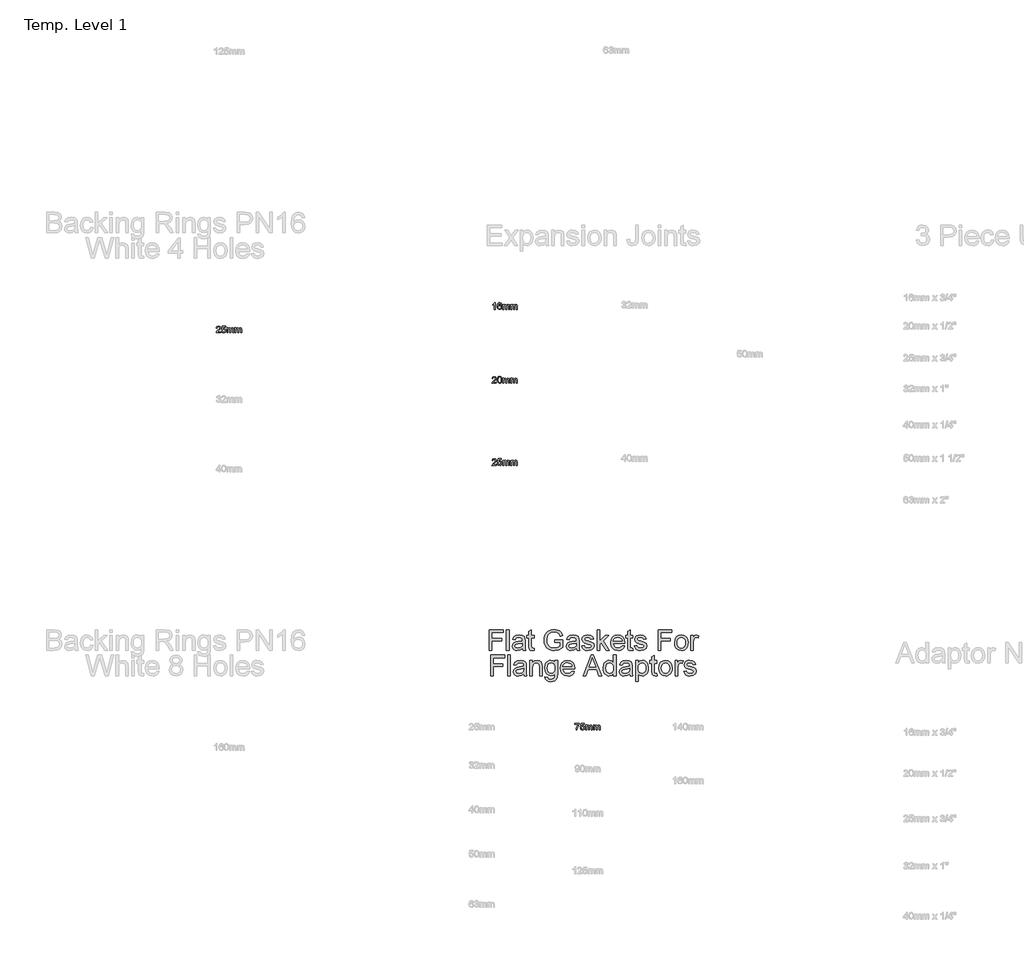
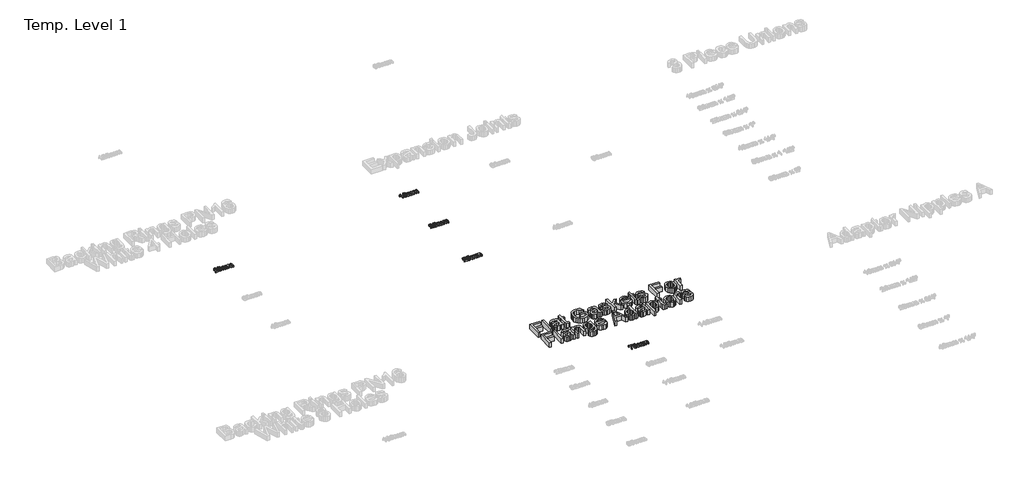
# One storey, part 10 of 62: 6 proxies.
"""IFC4 building model written with IfcOpenShell, lengths in millimetres."""

from ifc_helpers import new_model, si_unit, origin, origin_with_axes, place, context, project, spatial, polyline, outline, extrude, element, save

model = new_model("IFC4")

# Units and contexts
model_context = context("Model", 3, world=origin())
ifc_project = project(units=[si_unit("LENGTHUNIT", "METRE", prefix="MILLI")], contexts=[model_context])

# Site, building, storey
site = spatial("IfcSite", under=ifc_project)
building = spatial("IfcBuilding", under=site)
storey = spatial("IfcBuildingStorey", under=building, Name="Temp. Level 1", Elevation=0.0)

# Proxies
placement = place(None, origin())
element("IfcBuildingElementProxy", 1, Name="150mm Arial", ObjectType="150mm Arial", at=placement, inside=storey, context=model_context, shape_type="SweptSolid", body=[
    extrude(outline(polyline([(11676.1176365, -6979.0446709), (11676.1176365, -6831.3523632), (11775.3484058, -6831.3523632), (11775.3484058, -6849.8139016), (11694.579175, -6849.8139016), (11694.579175, -6893.6600555), (11763.8099442, -6893.6600555), (11763.8099442, -6912.1215939), (11694.579175, -6912.1215939), (11694.579175, -6979.0446709), (11676.1176365, -6979.0446709)])), origin_with_axes(), (0.0, 0.0, 1.0), 50.0),
    extrude(outline(polyline([(11798.4253288, -6979.0446709), (11798.4253288, -6831.3523632), (11816.8868673, -6831.3523632), (11816.8868673, -6979.0446709), (11798.4253288, -6979.0446709)])), origin_with_axes(), (0.0, 0.0, 1.0), 50.0),
    extrude(outline(polyline([(11913.8099442, -6965.198517), (11895.9073, -6977.7105362), (11876.1296558, -6981.3523632), (11860.7014707, -6979.1618584), (11849.3207615, -6972.5903439), (11842.3030332, -6962.6113776), (11839.9637904, -6950.198517), (11843.4974442, -6935.5951516), (11852.7823, -6924.9941901), (11865.7089827, -6918.9364978), (11881.6825404, -6916.1600555), (11913.7017712, -6909.8139016), (11913.8099442, -6905.7033247), (11912.5389106, -6897.464142), (11908.7258096, -6892.073517), (11900.1981654, -6888.0711132), (11888.3171558, -6886.7369786), (11869.6392712, -6890.2886612), (11860.7330212, -6902.8908247), (11842.2714827, -6900.5831324), (11850.2582615, -6882.5542862), (11866.3399923, -6871.9893824), (11890.6969635, -6868.2754401), (11913.0707615, -6871.5566901), (11925.7089827, -6879.7958728), (11931.3700404, -6892.3259209), (11932.2714827, -6908.479767), (11932.2714827, -6931.448517), (11933.2089827, -6963.5218343), (11936.8868673, -6979.0446709), (11918.4253288, -6979.0446709), (11913.8099442, -6965.198517)]), holes=[polyline([(11913.8099442, -6928.2754401), (11884.0262904, -6933.9364978), (11868.1428769, -6936.9292862), (11860.9493673, -6941.7970747), (11858.4253288, -6948.9004401), (11863.9241269, -6958.8884209), (11880.0599442, -6962.8908247), (11898.7378288, -6958.4737574), (11910.7810981, -6947.7826516), (11913.7017712, -6933.5038055), (11913.8099442, -6928.2754401)])]), origin_with_axes(), (0.0, 0.0, 1.0), 50.0),
    extrude(outline(polyline([(11996.8868673, -6963.6480362), (11999.1945596, -6979.5855362), (11985.3844635, -6981.3523632), (11969.9157135, -6978.2874593), (11962.1993673, -6970.2465939), (11959.9637904, -6949.2970747), (11959.9637904, -6889.0446709), (11946.1176365, -6889.0446709), (11946.1176365, -6870.5831324), (11959.9637904, -6870.5831324), (11959.9637904, -6844.2249593), (11978.4253288, -6833.3715939), (11978.4253288, -6870.5831324), (11996.8868673, -6870.5831324), (11996.8868673, -6889.0446709), (11978.4253288, -6889.0446709), (11978.4253288, -6948.7562093), (11979.3988865, -6958.2754401), (11982.5539346, -6961.6468343), (11988.8460019, -6962.8908247), (11996.8868673, -6963.6480362)])), origin_with_axes(), (0.0, 0.0, 1.0), 50.0),
    extrude(outline(polyline([(12144.579175, -6921.3523632), (12144.579175, -6902.8908247), (12204.579175, -6902.8908247), (12204.579175, -6958.0951516), (12174.9577808, -6975.511017), (12143.641675, -6981.3523632), (12122.931038, -6979.0311492), (12104.2125885, -6972.0675074), (12088.6627087, -6960.7048271), (12077.4577808, -6945.1864978), (12070.6834418, -6926.5717141), (12068.4253288, -6905.9196709), (12070.6744274, -6885.1188896), (12077.4217231, -6865.7694305), (12088.3877688, -6849.5389617), (12103.2931173, -6838.0951516), (12121.4481654, -6831.3072911), (12142.1633096, -6829.0446709), (12171.0455212, -6834.2910651), (12182.5614466, -6840.5651036), (12191.2919154, -6848.8944305), (12202.4517712, -6873.323517), (12185.4325404, -6878.1191901), (12177.0130692, -6861.0458728), (12162.62605, -6851.2021228), (12141.8748481, -6847.5062093), (12118.2390308, -6851.4905843), (12102.1573, -6861.9473151), (12092.6560981, -6876.1720747), (12086.8868673, -6905.1624593), (12088.6221438, -6922.8172069), (12093.8279731, -6937.3439497), (12102.3466029, -6948.6390218), (12114.0202808, -6956.5987574), (12127.6816389, -6961.3178079), (12142.1633096, -6962.8908247), (12167.4217231, -6958.1492382), (12186.1176365, -6948.0350555), (12186.1176365, -6921.3523632), (12144.579175, -6921.3523632)])), origin_with_axes(), (0.0, 0.0, 1.0), 50.0),
    extrude(outline(polyline([(12301.5022519, -6965.198517), (12283.5996077, -6977.7105362), (12263.8219635, -6981.3523632), (12248.3937784, -6979.1618584), (12237.0130692, -6972.5903439), (12229.9953409, -6962.6113776), (12227.6560981, -6950.198517), (12231.1897519, -6935.5951516), (12240.4746077, -6924.9941901), (12253.4012904, -6918.9364978), (12269.3748481, -6916.1600555), (12301.3940788, -6909.8139016), (12301.5022519, -6905.7033247), (12300.2312183, -6897.464142), (12296.4181173, -6892.073517), (12287.8904731, -6888.0711132), (12276.0094635, -6886.7369786), (12257.3315788, -6890.2886612), (12248.4253288, -6902.8908247), (12229.9637904, -6900.5831324), (12237.9505692, -6882.5542862), (12254.0323, -6871.9893824), (12278.3892712, -6868.2754401), (12300.7630692, -6871.5566901), (12313.4012904, -6879.7958728), (12319.0623481, -6892.3259209), (12319.9637904, -6908.479767), (12319.9637904, -6931.448517), (12320.9012904, -6963.5218343), (12324.579175, -6979.0446709), (12306.1176365, -6979.0446709), (12301.5022519, -6965.198517)]), holes=[polyline([(12301.5022519, -6928.2754401), (12271.7185981, -6933.9364978), (12255.8351846, -6936.9292862), (12248.641675, -6941.7970747), (12246.1176365, -6948.9004401), (12251.6164346, -6958.8884209), (12267.7522519, -6962.8908247), (12286.4301365, -6958.4737574), (12298.4734058, -6947.7826516), (12301.3940788, -6933.5038055), (12301.5022519, -6928.2754401)])]), origin_with_axes(), (0.0, 0.0, 1.0), 50.0),
    extrude(outline(polyline([(12338.4253288, -6946.7369786), (12356.8868673, -6944.4292862), (12359.798526, -6952.3259209), (12365.4325404, -6958.1312093), (12385.0118673, -6962.8908247), (12403.8339827, -6958.5278439), (12409.9637904, -6948.2874593), (12403.797925, -6939.9941901), (12384.7955212, -6934.729767), (12356.9950404, -6925.6973151), (12344.8616269, -6915.1504401), (12340.7330212, -6900.2586132), (12344.0503288, -6886.5026036), (12353.1008096, -6875.9917862), (12364.8375885, -6870.5290459), (12380.7210019, -6868.2754401), (12403.1849442, -6871.8992382), (12417.4637904, -6881.7069305), (12423.8099442, -6898.2754401), (12405.3484058, -6900.5831324), (12398.4073, -6890.3968343), (12382.1633096, -6886.7369786), (12364.4950404, -6890.2345747), (12359.1945596, -6898.3836132), (12361.3940788, -6903.7562093), (12368.2810981, -6907.8307286), (12384.1825404, -6911.761017), (12411.2798962, -6920.4509209), (12423.8640308, -6930.2946709), (12428.4253288, -6946.3403439), (12423.0707615, -6964.0086132), (12407.6200404, -6976.8271228), (12384.7594635, -6981.3523632), (12366.1446798, -6979.1708728), (12352.5599442, -6972.6264016), (12343.4914346, -6961.7910651), (12338.4253288, -6946.7369786)])), origin_with_axes(), (0.0, 0.0, 1.0), 50.0),
    extrude(outline(polyline([(12449.1945596, -6979.0446709), (12449.1945596, -6831.3523632), (12467.6560981, -6831.3523632), (12467.6560981, -6910.7153439), (12509.0503288, -6870.5831324), (12534.579175, -6870.5831324), (12492.6801365, -6911.2201516), (12536.8868673, -6979.0446709), (12515.3243673, -6979.0446709), (12479.4469635, -6924.0566901), (12467.6560981, -6935.4869786), (12467.6560981, -6979.0446709), (12449.1945596, -6979.0446709)])), origin_with_axes(), (0.0, 0.0, 1.0), 50.0),
    extrude(outline(polyline([(12628.9782135, -6946.7369786), (12647.079175, -6949.0446709), (12640.5572399, -6962.683493), (12630.1500885, -6972.8788055), (12616.0920957, -6979.2339737), (12598.6176365, -6981.3523632), (12576.9559779, -6977.6970146), (12560.2883096, -6966.7309689), (12549.6603048, -6949.1663656), (12546.1176365, -6925.7153439), (12549.6963625, -6901.4755603), (12560.4325404, -6883.3475555), (12576.8748481, -6872.0434689), (12597.5719635, -6868.2754401), (12617.6245476, -6872.0344545), (12633.6476846, -6883.3114978), (12644.1539947, -6901.4034449), (12647.6560981, -6925.6071709), (12647.547925, -6930.5831324), (12564.579175, -6930.5831324), (12567.774788, -6944.402243), (12575.1981654, -6954.5614978), (12585.9118072, -6960.808493), (12598.9782135, -6962.8908247), (12617.079175, -6959.0326516), (12628.9782135, -6946.7369786)]), holes=[polyline([(12564.579175, -6912.1215939), (12629.1945596, -6912.1215939), (12626.6975644, -6902.3679882), (12621.8027327, -6895.3908247), (12611.0395115, -6888.9004401), (12597.4998481, -6886.7369786), (12585.055437, -6888.4632406), (12574.7654731, -6893.6420266), (12567.6125284, -6901.7144425), (12564.579175, -6912.1215939)])]), origin_with_axes(), (0.0, 0.0, 1.0), 50.0),
    extrude(outline(polyline([(12705.3484058, -6963.6480362), (12707.6560981, -6979.5855362), (12693.8460019, -6981.3523632), (12678.3772519, -6978.2874593), (12670.6609058, -6970.2465939), (12668.4253288, -6949.2970747), (12668.4253288, -6889.0446709), (12654.579175, -6889.0446709), (12654.579175, -6870.5831324), (12668.4253288, -6870.5831324), (12668.4253288, -6844.2249593), (12686.8868673, -6833.3715939), (12686.8868673, -6870.5831324), (12705.3484058, -6870.5831324), (12705.3484058, -6889.0446709), (12686.8868673, -6889.0446709), (12686.8868673, -6948.7562093), (12687.860425, -6958.2754401), (12691.0154731, -6961.6468343), (12697.3075404, -6962.8908247), (12705.3484058, -6963.6480362)])), origin_with_axes(), (0.0, 0.0, 1.0), 50.0),
    extrude(outline(polyline([(12716.8868673, -6946.7369786), (12735.3484058, -6944.4292862), (12738.2600644, -6952.3259209), (12743.8940788, -6958.1312093), (12763.4734058, -6962.8908247), (12782.2955212, -6958.5278439), (12788.4253288, -6948.2874593), (12782.2594635, -6939.9941901), (12763.2570596, -6934.729767), (12735.4565788, -6925.6973151), (12723.3231654, -6915.1504401), (12719.1945596, -6900.2586132), (12722.5118673, -6886.5026036), (12731.5623481, -6875.9917862), (12743.2991269, -6870.5290459), (12759.1825404, -6868.2754401), (12781.6464827, -6871.8992382), (12795.9253288, -6881.7069305), (12802.2714827, -6898.2754401), (12783.8099442, -6900.5831324), (12776.8688385, -6890.3968343), (12760.6248481, -6886.7369786), (12742.9565788, -6890.2345747), (12737.6560981, -6898.3836132), (12739.8556173, -6903.7562093), (12746.7426365, -6907.8307286), (12762.6440788, -6911.761017), (12789.7414346, -6920.4509209), (12802.3255692, -6930.2946709), (12806.8868673, -6946.3403439), (12801.5323, -6964.0086132), (12786.0815788, -6976.8271228), (12763.2210019, -6981.3523632), (12744.6062183, -6979.1708728), (12731.0214827, -6972.6264016), (12721.9529731, -6961.7910651), (12716.8868673, -6946.7369786)])), origin_with_axes(), (0.0, 0.0, 1.0), 50.0),
    extrude(outline(polyline([(12887.6560981, -6979.0446709), (12887.6560981, -6831.3523632), (12986.8868673, -6831.3523632), (12986.8868673, -6849.8139016), (12906.1176365, -6849.8139016), (12906.1176365, -6893.6600555), (12975.3484058, -6893.6600555), (12975.3484058, -6912.1215939), (12906.1176365, -6912.1215939), (12906.1176365, -6979.0446709), (12887.6560981, -6979.0446709)])), origin_with_axes(), (0.0, 0.0, 1.0), 50.0),
    extrude(outline(polyline([(13005.3484058, -6924.8139016), (13009.3417952, -6898.6630603), (13021.3219635, -6880.2826516), (13036.1236462, -6871.277243), (13053.8460019, -6868.2754401), (13073.2405332, -6871.9307887), (13088.7318192, -6882.8968343), (13098.8865668, -6900.3081925), (13102.2714827, -6923.2994786), (13100.7750885, -6941.9503199), (13096.2859058, -6956.1480362), (13088.9346438, -6966.7805483), (13078.8520115, -6974.7357766), (13066.8763505, -6979.6982165), (13053.8460019, -6981.3523632), (13034.2170957, -6977.7105362), (13018.7438385, -6966.7850555), (13008.6972639, -6949.0086132), (13005.3484058, -6924.8139016)]), holes=[polyline([(13023.8099442, -6924.7778439), (13025.9463625, -6941.4860771), (13032.3556173, -6953.3896228), (13042.00105, -6960.5155242), (13053.8460019, -6962.8908247), (13065.6368673, -6960.5020026), (13075.2642712, -6953.3355362), (13081.673526, -6941.2742382), (13083.8099442, -6924.2009209), (13081.6600043, -6907.9794665), (13075.2101846, -6896.2381805), (13065.5692591, -6889.112279), (13053.8460019, -6886.7369786), (13042.00105, -6889.1032646), (13032.3556173, -6896.2021228), (13025.9463625, -6908.0786252), (13023.8099442, -6924.7778439)])]), origin_with_axes(), (0.0, 0.0, 1.0), 50.0),
    extrude(outline(polyline([(13123.0407135, -6979.0446709), (13123.0407135, -6870.5831324), (13139.1945596, -6870.5831324), (13139.1945596, -6886.6288055), (13150.6609058, -6871.8451516), (13162.1993673, -6868.2754401), (13180.7330212, -6873.9725555), (13174.5671558, -6890.5230362), (13161.5863865, -6886.7369786), (13151.1476846, -6890.3788055), (13144.4950404, -6900.4749593), (13141.5022519, -6922.0374593), (13141.5022519, -6979.0446709), (13123.0407135, -6979.0446709)])), origin_with_axes(), (0.0, 0.0, 1.0), 50.0),
    extrude(outline(polyline([(11685.3484058, -7161.3523632), (11685.3484058, -7013.6600555), (11784.579175, -7013.6600555), (11784.579175, -7032.1215939), (11703.8099442, -7032.1215939), (11703.8099442, -7075.9677478), (11773.0407135, -7075.9677478), (11773.0407135, -7094.4292862), (11703.8099442, -7094.4292862), (11703.8099442, -7161.3523632), (11685.3484058, -7161.3523632)])), origin_with_axes(), (0.0, 0.0, 1.0), 50.0),
    extrude(outline(polyline([(11807.6560981, -7161.3523632), (11807.6560981, -7013.6600555), (11826.1176365, -7013.6600555), (11826.1176365, -7161.3523632), (11807.6560981, -7161.3523632)])), origin_with_axes(), (0.0, 0.0, 1.0), 50.0),
    extrude(outline(polyline([(11923.0407135, -7147.5062093), (11905.1380692, -7160.0182286), (11885.360425, -7163.6600555), (11869.9322399, -7161.4695507), (11858.5515308, -7154.8980362), (11851.5338024, -7144.9190699), (11849.1945596, -7132.5062093), (11852.7282135, -7117.9028439), (11862.0130692, -7107.3018824), (11874.9397519, -7101.2441901), (11890.9133096, -7098.4677478), (11922.9325404, -7092.1215939), (11923.0407135, -7088.011017), (11921.7696798, -7079.7718343), (11917.9565788, -7074.3812093), (11909.4289346, -7070.3788055), (11897.547925, -7069.0446709), (11878.8700404, -7072.5963536), (11869.9637904, -7085.198517), (11851.5022519, -7082.8908247), (11859.4890308, -7064.8619786), (11875.5707615, -7054.2970747), (11899.9277327, -7050.5831324), (11922.3015308, -7053.8643824), (11934.9397519, -7062.1035651), (11940.6008096, -7074.6336132), (11941.5022519, -7090.7874593), (11941.5022519, -7113.7562093), (11942.4397519, -7145.8295266), (11946.1176365, -7161.3523632), (11927.6560981, -7161.3523632), (11923.0407135, -7147.5062093)]), holes=[polyline([(11923.0407135, -7110.5831324), (11893.2570596, -7116.2441901), (11877.3736462, -7119.2369786), (11870.1801365, -7124.104767), (11867.6560981, -7131.2081324), (11873.1548962, -7141.1961132), (11889.2907135, -7145.198517), (11907.9685981, -7140.7814497), (11920.0118673, -7130.0903439), (11922.9325404, -7115.8114978), (11923.0407135, -7110.5831324)])]), origin_with_axes(), (0.0, 0.0, 1.0), 50.0),
    extrude(outline(polyline([(11966.8868673, -7161.3523632), (11966.8868673, -7052.8908247), (11985.3484058, -7052.8908247), (11985.3484058, -7068.0350555), (11999.4649923, -7054.9461132), (12018.7378288, -7050.5831324), (12036.1717231, -7054.0987574), (12048.0707615, -7063.3295266), (12053.6056173, -7076.9052478), (12054.579175, -7094.7538055), (12054.579175, -7161.3523632), (12036.1176365, -7161.3523632), (12036.1176365, -7097.2417862), (12033.9902327, -7080.9076516), (12026.4722038, -7072.2718343), (12013.797925, -7069.0446709), (12002.9851245, -7070.8565699), (11993.7678769, -7076.292267), (11987.4532736, -7086.7940699), (11985.3484058, -7103.8042862), (11985.3484058, -7161.3523632), (11966.8868673, -7161.3523632)])), origin_with_axes(), (0.0, 0.0, 1.0), 50.0),
    extrude(outline(polyline([(12075.3484058, -7170.5831324), (12093.8099442, -7172.8908247), (12099.7955212, -7182.6264016), (12117.7161942, -7186.7369786), (12136.610425, -7182.0855362), (12145.6248481, -7169.0326516), (12146.8868673, -7147.5062093), (12133.8880692, -7157.8908247), (12118.0407135, -7161.3523632), (12099.0067591, -7157.3229161), (12084.81355, -7145.2345747), (12075.9839226, -7127.5122189), (12073.0407135, -7106.5807286), (12078.3231654, -7077.9689497), (12084.7865067, -7066.3538656), (12093.6116269, -7057.7225555), (12104.4965428, -7052.3679882), (12117.1392712, -7050.5831324), (12133.6086221, -7054.6215939), (12146.8868673, -7066.7369786), (12146.8868673, -7052.8908247), (12165.3484058, -7052.8908247), (12165.3484058, -7146.5326516), (12164.0863865, -7168.1537454), (12160.3003288, -7182.3920266), (12153.7783938, -7191.8346348), (12144.3087423, -7199.0687093), (12132.0987063, -7203.6660651), (12117.3556173, -7205.198517), (12100.1786341, -7203.0395627), (12086.6524923, -7196.5626997), (12077.9761101, -7185.7498992), (12075.3484058, -7170.5831324)]), holes=[polyline([(12091.5022519, -7105.3187093), (12093.4719034, -7122.2523031), (12099.3808577, -7133.8944305), (12108.2645716, -7140.6417262), (12119.1585019, -7142.8908247), (12129.9713024, -7140.6552478), (12138.9000885, -7133.948517), (12144.8901726, -7122.4551276), (12146.8868673, -7105.8595747), (12144.8315788, -7089.8544665), (12138.6657135, -7078.3295266), (12129.6062183, -7071.3658848), (12118.8700404, -7069.0446709), (12108.3276726, -7071.3298271), (12099.4890308, -7078.1852959), (12093.4989466, -7089.5389617), (12091.5022519, -7105.3187093)])]), origin_with_axes(), (0.0, 0.0, 1.0), 50.0),
    extrude(outline(polyline([(12268.9782135, -7129.0446709), (12287.079175, -7131.3523632), (12280.5572399, -7144.9911853), (12270.1500885, -7155.1864978), (12256.0920957, -7161.5416661), (12238.6176365, -7163.6600555), (12216.9559779, -7160.0047069), (12200.2883096, -7149.0386612), (12189.6603048, -7131.4740579), (12186.1176365, -7108.0230362), (12189.6963625, -7083.7832526), (12200.4325404, -7065.6552478), (12216.8748481, -7054.3511612), (12237.5719635, -7050.5831324), (12257.6245476, -7054.3421468), (12273.6476846, -7065.6191901), (12284.1539947, -7083.7111372), (12287.6560981, -7107.9148632), (12287.547925, -7112.8908247), (12204.579175, -7112.8908247), (12207.774788, -7126.7099353), (12215.1981654, -7136.8691901), (12225.9118072, -7143.1161853), (12238.9782135, -7145.198517), (12257.079175, -7141.3403439), (12268.9782135, -7129.0446709)]), holes=[polyline([(12204.579175, -7094.4292862), (12269.1945596, -7094.4292862), (12266.6975644, -7084.6756805), (12261.8027327, -7077.698517), (12251.0395115, -7071.2081324), (12237.4998481, -7069.0446709), (12225.055437, -7070.7709329), (12214.7654731, -7075.9497189), (12207.6125284, -7084.0221348), (12204.579175, -7094.4292862)])]), origin_with_axes(), (0.0, 0.0, 1.0), 50.0),
    extrude(outline(polyline([(12348.9181173, -7161.3523632), (12407.8724442, -7013.6600555), (12423.5935981, -7013.6600555), (12482.547925, -7161.3523632), (12463.0407135, -7161.3523632), (12446.1296558, -7115.198517), (12385.3003288, -7115.198517), (12368.4253288, -7161.3523632), (12348.9181173, -7161.3523632)]), holes=[polyline([(12392.079175, -7096.7369786), (12439.3868673, -7096.7369786), (12426.0815788, -7060.4268824), (12415.7330212, -7032.1215939), (12406.5383096, -7057.2538055), (12392.079175, -7096.7369786)])]), origin_with_axes(), (0.0, 0.0, 1.0), 50.0),
    extrude(outline(polyline([(12566.8868673, -7161.3523632), (12566.8868673, -7143.9364978), (12554.672324, -7158.7291661), (12537.7883096, -7163.6600555), (12525.8532135, -7161.8751997), (12514.9277327, -7156.5206324), (12505.6789346, -7147.9704521), (12498.7738865, -7136.5987574), (12494.4740067, -7122.8652838), (12493.0407135, -7107.229767), (12498.3231654, -7077.8427478), (12504.9217231, -7066.1870987), (12514.1524923, -7057.6143824), (12525.3168553, -7052.3409449), (12537.7161942, -7050.5831324), (12554.735425, -7055.6131805), (12566.8868673, -7068.6840939), (12566.8868673, -7013.6600555), (12585.3484058, -7013.6600555), (12585.3484058, -7161.3523632), (12566.8868673, -7161.3523632)]), holes=[polyline([(12511.5022519, -7107.1576516), (12513.5845837, -7123.8568704), (12519.8315788, -7135.7333728), (12528.9091029, -7142.832231), (12539.4830212, -7145.198517), (12550.0524322, -7142.940404), (12558.9000885, -7136.1660651), (12564.8901726, -7124.7492983), (12566.8868673, -7108.5639016), (12564.8541149, -7090.8685891), (12558.7558577, -7078.5999593), (12549.6828409, -7071.433493), (12538.7258096, -7069.0446709), (12528.0437183, -7071.3388415), (12519.2907135, -7078.2213536), (12513.4493673, -7090.0437694), (12511.5022519, -7107.1576516)])]), origin_with_axes(), (0.0, 0.0, 1.0), 50.0),
    extrude(outline(polyline([(12682.2714827, -7147.5062093), (12664.3688385, -7160.0182286), (12644.5911942, -7163.6600555), (12629.1630091, -7161.4695507), (12617.7823, -7154.8980362), (12610.7645716, -7144.9190699), (12608.4253288, -7132.5062093), (12611.9589827, -7117.9028439), (12621.2438385, -7107.3018824), (12634.1705212, -7101.2441901), (12650.1440788, -7098.4677478), (12682.1633096, -7092.1215939), (12682.2714827, -7088.011017), (12681.000449, -7079.7718343), (12677.1873481, -7074.3812093), (12668.6597038, -7070.3788055), (12656.7786942, -7069.0446709), (12638.1008096, -7072.5963536), (12629.1945596, -7085.198517), (12610.7330212, -7082.8908247), (12618.7198, -7064.8619786), (12634.8015308, -7054.2970747), (12659.1585019, -7050.5831324), (12681.5323, -7053.8643824), (12694.1705212, -7062.1035651), (12699.8315788, -7074.6336132), (12700.7330212, -7090.7874593), (12700.7330212, -7113.7562093), (12701.6705212, -7145.8295266), (12705.3484058, -7161.3523632), (12686.8868673, -7161.3523632), (12682.2714827, -7147.5062093)]), holes=[polyline([(12682.2714827, -7110.5831324), (12652.4878288, -7116.2441901), (12636.6044154, -7119.2369786), (12629.4109058, -7124.104767), (12626.8868673, -7131.2081324), (12632.3856654, -7141.1961132), (12648.5214827, -7145.198517), (12667.1993673, -7140.7814497), (12679.2426365, -7130.0903439), (12682.1633096, -7115.8114978), (12682.2714827, -7110.5831324)])]), origin_with_axes(), (0.0, 0.0, 1.0), 50.0),
    extrude(outline(polyline([(12726.1176365, -7202.8908247), (12726.1176365, -7052.8908247), (12744.579175, -7052.8908247), (12744.579175, -7070.9917862), (12757.3435981, -7055.6852959), (12774.579175, -7050.5831324), (12787.064151, -7052.3679882), (12797.9806173, -7057.7225555), (12806.8688385, -7066.3223151), (12813.2690788, -7077.8427478), (12818.4253288, -7106.292267), (12816.9694995, -7122.081029), (12812.6020115, -7136.2021228), (12805.4625885, -7147.9389016), (12795.6909538, -7156.5747189), (12784.3102447, -7161.8887213), (12772.3435981, -7163.6600555), (12756.2798962, -7158.9184689), (12744.579175, -7146.9292862), (12744.579175, -7202.8908247), (12726.1176365, -7202.8908247)]), holes=[polyline([(12744.579175, -7107.9869786), (12746.5758697, -7124.5374593), (12752.5659538, -7136.1119786), (12761.4045957, -7142.9268824), (12771.9469635, -7145.198517), (12782.6606053, -7142.8457526), (12791.7246077, -7135.7874593), (12797.9039947, -7123.7892622), (12799.9637904, -7106.6167862), (12797.953574, -7090.1564497), (12791.922925, -7078.4196709), (12783.0978048, -7071.3884209), (12772.704175, -7069.0446709), (12762.2699803, -7071.5371588), (12753.1068192, -7079.0146228), (12746.7110861, -7091.2426877), (12744.579175, -7107.9869786)])]), origin_with_axes(), (0.0, 0.0, 1.0), 50.0),
    extrude(outline(polyline([(12878.4253288, -7145.9557286), (12880.7330212, -7161.8932286), (12866.922925, -7163.6600555), (12851.454175, -7160.5951516), (12843.7378288, -7152.5542862), (12841.5022519, -7131.604767), (12841.5022519, -7071.3523632), (12827.6560981, -7071.3523632), (12827.6560981, -7052.8908247), (12841.5022519, -7052.8908247), (12841.5022519, -7026.5326516), (12859.9637904, -7015.6792862), (12859.9637904, -7052.8908247), (12878.4253288, -7052.8908247), (12878.4253288, -7071.3523632), (12859.9637904, -7071.3523632), (12859.9637904, -7131.0639016), (12860.9373481, -7140.5831324), (12864.0923962, -7143.9545266), (12870.3844635, -7145.198517), (12878.4253288, -7145.9557286)])), origin_with_axes(), (0.0, 0.0, 1.0), 50.0),
    extrude(outline(polyline([(12892.2714827, -7107.1215939), (12896.2648721, -7080.9707526), (12908.2450404, -7062.5903439), (12923.0467231, -7053.5849353), (12940.7690788, -7050.5831324), (12960.1636101, -7054.238481), (12975.6548962, -7065.2045266), (12985.8096438, -7082.6158848), (12989.1945596, -7105.6071709), (12987.6981654, -7124.2580122), (12983.2089827, -7138.4557286), (12975.8577207, -7149.0882406), (12965.7750885, -7157.0434689), (12953.7994274, -7162.0059088), (12940.7690788, -7163.6600555), (12921.1401726, -7160.0182286), (12905.6669154, -7149.0927478), (12895.6203409, -7131.3163055), (12892.2714827, -7107.1215939)]), holes=[polyline([(12910.7330212, -7107.0855362), (12912.8694394, -7123.7937694), (12919.2786942, -7135.6973151), (12928.9241269, -7142.8232165), (12940.7690788, -7145.198517), (12952.5599442, -7142.8096949), (12962.1873481, -7135.6432286), (12968.5966029, -7123.5819305), (12970.7330212, -7106.5086132), (12968.5830813, -7090.2871588), (12962.1332615, -7078.5458728), (12952.4923361, -7071.4199713), (12940.7690788, -7069.0446709), (12928.9241269, -7071.4109569), (12919.2786942, -7078.5098151), (12912.8694394, -7090.3863175), (12910.7330212, -7107.0855362)])]), origin_with_axes(), (0.0, 0.0, 1.0), 50.0),
    extrude(outline(polyline([(13009.9637904, -7161.3523632), (13009.9637904, -7052.8908247), (13026.1176365, -7052.8908247), (13026.1176365, -7068.9364978), (13037.5839827, -7054.1528439), (13049.1224442, -7050.5831324), (13067.6560981, -7056.2802478), (13061.4902327, -7072.8307286), (13048.5094635, -7069.0446709), (13038.0707615, -7072.6864978), (13031.4181173, -7082.7826516), (13028.4253288, -7104.3451516), (13028.4253288, -7161.3523632), (13009.9637904, -7161.3523632)])), origin_with_axes(), (0.0, 0.0, 1.0), 50.0),
    extrude(outline(polyline([(13072.2714827, -7129.0446709), (13090.7330212, -7126.7369786), (13093.6446798, -7134.6336132), (13099.2786942, -7140.4389016), (13118.8580212, -7145.198517), (13137.6801365, -7140.8355362), (13143.8099442, -7130.5951516), (13137.6440788, -7122.3018824), (13118.641675, -7117.0374593), (13090.8411942, -7108.0050074), (13078.7077808, -7097.4581324), (13074.579175, -7082.5663055), (13077.8964827, -7068.8102959), (13086.9469635, -7058.2994786), (13098.6837423, -7052.8367382), (13114.5671558, -7050.5831324), (13137.0310981, -7054.2069305), (13151.3099442, -7064.0146228), (13157.6560981, -7080.5831324), (13139.1945596, -7082.8908247), (13132.2534538, -7072.7045266), (13116.0094635, -7069.0446709), (13098.3411942, -7072.542267), (13093.0407135, -7080.6913055), (13095.2402327, -7086.0639016), (13102.1272519, -7090.1384209), (13118.0286942, -7094.0687093), (13145.12605, -7102.7586132), (13157.7101846, -7112.6023632), (13162.2714827, -7128.6480362), (13156.9169154, -7146.3163055), (13141.4661942, -7159.1348151), (13118.6056173, -7163.6600555), (13099.9908337, -7161.4785651), (13086.4060981, -7154.9340939), (13077.3375885, -7144.0987574), (13072.2714827, -7129.0446709)])), origin_with_axes(), (0.0, 0.0, 1.0), 50.0),
])
element("IfcBuildingElementProxy", 2, Name="50mm Arial", ObjectType="50mm Arial", at=placement, inside=storey, context=model_context, shape_type="SweptSolid", body=[
    extrude(outline(polyline([(9746.8630554, -4691.5754118), (9746.8630554, -4697.729258), (9714.5553631, -4697.729258), (9715.2164208, -4693.4864695), (9718.9544016, -4686.9540176), (9726.6587285, -4679.8206042), (9737.2837285, -4669.5682003), (9739.9399785, -4662.5970465), (9737.4339689, -4656.9540176), (9730.8894977, -4654.6523349), (9724.0685843, -4656.8999311), (9721.4784401, -4663.1138734), (9715.3245939, -4662.3446426), (9720.042142, -4652.0441618), (9731.0217093, -4648.4984888), (9742.0373343, -4652.4407965), (9746.0938247, -4662.2244503), (9745.0000747, -4668.0597868), (9741.3642574, -4674.0934407), (9732.5481516, -4682.5249311), (9725.4688247, -4688.4444022), (9722.6923824, -4691.5754118), (9746.8630554, -4691.5754118)])), origin_with_axes(), (0.0, 0.0, 1.0), 15.0),
    extrude(outline(polyline([(9753.0169016, -4684.6523349), (9759.1707477, -4683.8831042), (9762.2717093, -4690.2232484), (9768.7019977, -4692.3446426), (9776.4183439, -4689.3939215), (9779.1707477, -4681.5633926), (9776.5926227, -4674.2557003), (9768.7981516, -4671.5754118), (9763.3955074, -4672.6451234), (9759.9399785, -4675.4215657), (9753.7861324, -4674.6523349), (9759.1707477, -4649.2677195), (9783.0169016, -4649.2677195), (9783.0169016, -4655.4215657), (9764.1467093, -4655.4215657), (9761.5144977, -4668.979258), (9770.5169016, -4665.4215657), (9781.0397381, -4669.8326234), (9785.3245939, -4681.1787772), (9781.4664208, -4692.5970465), (9775.9255554, -4697.0231282), (9768.6779593, -4698.4984888), (9757.8185843, -4694.7064215), (9753.0169016, -4684.6523349)])), origin_with_axes(), (0.0, 0.0, 1.0), 15.0),
    extrude(outline(polyline([(9792.2476708, -4697.729258), (9792.2476708, -4661.5754118), (9798.401517, -4661.5754118), (9798.401517, -4667.5249311), (9802.6322862, -4662.651133), (9808.6539208, -4660.8061811), (9814.8197862, -4662.6871907), (9818.2092093, -4667.9576234), (9823.010892, -4662.5940417), (9829.0745939, -4660.8061811), (9837.1214689, -4663.7809407), (9839.9399785, -4672.9456042), (9839.9399785, -4697.729258), (9833.7861324, -4697.729258), (9833.7861324, -4675.5898349), (9833.2152189, -4670.4516138), (9831.1479112, -4667.9215657), (9827.6322862, -4666.9600272), (9821.5806035, -4669.4239695), (9819.1707477, -4677.3206042), (9819.1707477, -4697.729258), (9813.0169016, -4697.729258), (9813.0169016, -4674.9047388), (9811.5926227, -4668.9432003), (9806.9231516, -4666.9600272), (9802.3678631, -4668.2821426), (9799.339017, -4672.1523349), (9798.401517, -4679.4960849), (9798.401517, -4697.729258), (9792.2476708, -4697.729258)])), origin_with_axes(), (0.0, 0.0, 1.0), 15.0),
    extrude(outline(polyline([(9849.1707477, -4697.729258), (9849.1707477, -4661.5754118), (9855.3245939, -4661.5754118), (9855.3245939, -4667.5249311), (9859.5553631, -4662.651133), (9865.5769977, -4660.8061811), (9871.7428631, -4662.6871907), (9875.1322862, -4667.9576234), (9879.9339689, -4662.5940417), (9885.9976708, -4660.8061811), (9894.0445458, -4663.7809407), (9896.8630554, -4672.9456042), (9896.8630554, -4697.729258), (9890.7092093, -4697.729258), (9890.7092093, -4675.5898349), (9890.1382958, -4670.4516138), (9888.0709881, -4667.9215657), (9884.5553631, -4666.9600272), (9878.5036804, -4669.4239695), (9876.0938247, -4677.3206042), (9876.0938247, -4697.729258), (9869.9399785, -4697.729258), (9869.9399785, -4674.9047388), (9868.5156997, -4668.9432003), (9863.8462285, -4666.9600272), (9859.2909401, -4668.2821426), (9856.2620939, -4672.1523349), (9855.3245939, -4679.4960849), (9855.3245939, -4697.729258), (9849.1707477, -4697.729258)])), origin_with_axes(), (0.0, 0.0, 1.0), 15.0),
])
element("IfcBuildingElementProxy", 3, Name="50mm Arial", ObjectType="50mm Arial", at=placement, inside=storey, context=model_context, shape_type="SweptSolid", body=[
    extrude(outline(polyline([(11718.401517, -4530.198517), (11712.2476708, -4530.198517), (11712.2476708, -4491.8331324), (11706.4183439, -4495.9857766), (11699.9399785, -4499.0927478), (11699.9399785, -4493.2754401), (11708.9604112, -4487.5182286), (11714.4351708, -4480.9677478), (11718.401517, -4480.9677478), (11718.401517, -4530.198517)])), origin_with_axes(), (0.0, 0.0, 1.0), 15.0),
    extrude(outline(polyline([(11764.5553631, -4494.0446709), (11758.401517, -4494.8139016), (11756.0697862, -4489.6816901), (11749.9039208, -4487.1215939), (11744.3510362, -4488.6119786), (11740.1503151, -4494.2069305), (11738.401517, -4505.1744786), (11743.8281997, -4500.2646228), (11750.5529593, -4498.6600555), (11761.0096901, -4503.0470747), (11765.3245939, -4514.3812093), (11763.2933439, -4522.8727959), (11757.7044016, -4528.8824112), (11749.6394977, -4530.9677478), (11737.0974304, -4525.4389016), (11733.4601107, -4518.1191901), (11732.2476708, -4507.2177478), (11733.5938247, -4494.9611372), (11737.6322862, -4486.5807286), (11743.1461083, -4482.370993), (11750.2885362, -4480.9677478), (11760.0120939, -4484.4413055), (11764.5553631, -4494.0446709)]), holes=[polyline([(11738.401517, -4514.2850555), (11739.8257958, -4519.6155843), (11743.6118535, -4523.4857766), (11749.1587285, -4524.8139016), (11756.4123343, -4522.0614978), (11759.1707477, -4514.5855362), (11756.448392, -4507.4280843), (11748.9063247, -4504.8139016), (11741.4604112, -4507.4280843), (11738.401517, -4514.2850555)])]), origin_with_axes(), (0.0, 0.0, 1.0), 15.0),
    extrude(outline(polyline([(11772.2476708, -4530.198517), (11772.2476708, -4494.0446709), (11778.401517, -4494.0446709), (11778.401517, -4499.9941901), (11782.6322862, -4495.120392), (11788.6539208, -4493.2754401), (11794.8197862, -4495.1564497), (11798.2092093, -4500.4268824), (11803.010892, -4495.0633007), (11809.0745939, -4493.2754401), (11817.1214689, -4496.2501997), (11819.9399785, -4505.4148632), (11819.9399785, -4530.198517), (11813.7861324, -4530.198517), (11813.7861324, -4508.0590939), (11813.2152189, -4502.9208728), (11811.1479112, -4500.3908247), (11807.6322862, -4499.4292862), (11801.5806035, -4501.8932286), (11799.1707477, -4509.7898632), (11799.1707477, -4530.198517), (11793.0169016, -4530.198517), (11793.0169016, -4507.3739978), (11791.5926227, -4501.4124593), (11786.9231516, -4499.4292862), (11782.3678631, -4500.7514016), (11779.339017, -4504.6215939), (11778.401517, -4511.9653439), (11778.401517, -4530.198517), (11772.2476708, -4530.198517)])), origin_with_axes(), (0.0, 0.0, 1.0), 15.0),
    extrude(outline(polyline([(11829.1707477, -4530.198517), (11829.1707477, -4494.0446709), (11835.3245939, -4494.0446709), (11835.3245939, -4499.9941901), (11839.5553631, -4495.120392), (11845.5769977, -4493.2754401), (11851.7428631, -4495.1564497), (11855.1322862, -4500.4268824), (11859.9339689, -4495.0633007), (11865.9976708, -4493.2754401), (11874.0445458, -4496.2501997), (11876.8630554, -4505.4148632), (11876.8630554, -4530.198517), (11870.7092093, -4530.198517), (11870.7092093, -4508.0590939), (11870.1382958, -4502.9208728), (11868.0709881, -4500.3908247), (11864.5553631, -4499.4292862), (11858.5036804, -4501.8932286), (11856.0938247, -4509.7898632), (11856.0938247, -4530.198517), (11849.9399785, -4530.198517), (11849.9399785, -4507.3739978), (11848.5156997, -4501.4124593), (11843.8462285, -4499.4292862), (11839.2909401, -4500.7514016), (11836.2620939, -4504.6215939), (11835.3245939, -4511.9653439), (11835.3245939, -4530.198517), (11829.1707477, -4530.198517)])), origin_with_axes(), (0.0, 0.0, 1.0), 15.0),
])
element("IfcBuildingElementProxy", 4, Name="50mm Arial", ObjectType="50mm Arial", at=placement, inside=storey, context=model_context, shape_type="SweptSolid", body=[
    extrude(outline(polyline([(11726.8630554, -5054.0446709), (11726.8630554, -5060.198517), (11694.5553631, -5060.198517), (11695.2164208, -5055.9557286), (11698.9544016, -5049.4232766), (11706.6587285, -5042.2898632), (11717.2837285, -5032.0374593), (11719.9399785, -5025.0663055), (11717.4339689, -5019.4232766), (11710.8894977, -5017.1215939), (11704.0685843, -5019.3691901), (11701.4784401, -5025.5831324), (11695.3245939, -5024.8139016), (11700.042142, -5014.5134209), (11711.0217093, -5010.9677478), (11722.0373343, -5014.9100555), (11726.0938247, -5024.6937093), (11725.0000747, -5030.5290459), (11721.3642574, -5036.5626997), (11712.5481516, -5044.9941901), (11705.4688247, -5050.9136612), (11702.6923824, -5054.0446709), (11726.8630554, -5054.0446709)])), origin_with_axes(), (0.0, 0.0, 1.0), 15.0),
    extrude(outline(polyline([(11733.0169016, -5035.979767), (11734.8257958, -5021.8151036), (11740.198392, -5013.6480362), (11749.1707477, -5010.9677478), (11756.3582477, -5012.5542862), (11761.3221901, -5017.1276036), (11764.2068054, -5024.4112574), (11765.3245939, -5035.979767), (11763.5337285, -5050.0843343), (11758.1791612, -5058.2694305), (11749.1707477, -5060.9677478), (11737.9207477, -5056.2802478), (11734.2428631, -5047.9539257), (11733.0169016, -5035.979767)]), holes=[polyline([(11739.1707477, -5035.9677478), (11742.0553631, -5051.2501997), (11749.1707477, -5054.8139016), (11756.2861324, -5051.2381805), (11759.1707477, -5035.9677478), (11756.3822862, -5020.8595747), (11749.0986324, -5017.1215939), (11742.151517, -5020.4148632), (11739.1707477, -5035.9677478)])]), origin_with_axes(), (0.0, 0.0, 1.0), 15.0),
    extrude(outline(polyline([(11772.2476708, -5060.198517), (11772.2476708, -5024.0446709), (11778.401517, -5024.0446709), (11778.401517, -5029.9941901), (11782.6322862, -5025.120392), (11788.6539208, -5023.2754401), (11794.8197862, -5025.1564497), (11798.2092093, -5030.4268824), (11803.010892, -5025.0633007), (11809.0745939, -5023.2754401), (11817.1214689, -5026.2501997), (11819.9399785, -5035.4148632), (11819.9399785, -5060.198517), (11813.7861324, -5060.198517), (11813.7861324, -5038.0590939), (11813.2152189, -5032.9208728), (11811.1479112, -5030.3908247), (11807.6322862, -5029.4292862), (11801.5806035, -5031.8932286), (11799.1707477, -5039.7898632), (11799.1707477, -5060.198517), (11793.0169016, -5060.198517), (11793.0169016, -5037.3739978), (11791.5926227, -5031.4124593), (11786.9231516, -5029.4292862), (11782.3678631, -5030.7514016), (11779.339017, -5034.6215939), (11778.401517, -5041.9653439), (11778.401517, -5060.198517), (11772.2476708, -5060.198517)])), origin_with_axes(), (0.0, 0.0, 1.0), 15.0),
    extrude(outline(polyline([(11829.1707477, -5060.198517), (11829.1707477, -5024.0446709), (11835.3245939, -5024.0446709), (11835.3245939, -5029.9941901), (11839.5553631, -5025.120392), (11845.5769977, -5023.2754401), (11851.7428631, -5025.1564497), (11855.1322862, -5030.4268824), (11859.9339689, -5025.0633007), (11865.9976708, -5023.2754401), (11874.0445458, -5026.2501997), (11876.8630554, -5035.4148632), (11876.8630554, -5060.198517), (11870.7092093, -5060.198517), (11870.7092093, -5038.0590939), (11870.1382958, -5032.9208728), (11868.0709881, -5030.3908247), (11864.5553631, -5029.4292862), (11858.5036804, -5031.8932286), (11856.0938247, -5039.7898632), (11856.0938247, -5060.198517), (11849.9399785, -5060.198517), (11849.9399785, -5037.3739978), (11848.5156997, -5031.4124593), (11843.8462285, -5029.4292862), (11839.2909401, -5030.7514016), (11836.2620939, -5034.6215939), (11835.3245939, -5041.9653439), (11835.3245939, -5060.198517), (11829.1707477, -5060.198517)])), origin_with_axes(), (0.0, 0.0, 1.0), 15.0),
])
element("IfcBuildingElementProxy", 5, Name="50mm Arial", ObjectType="50mm Arial", at=placement, inside=storey, context=model_context, shape_type="SweptSolid", body=[
    extrude(outline(polyline([(11726.8630554, -5644.0446709), (11726.8630554, -5650.198517), (11694.5553631, -5650.198517), (11695.2164208, -5645.9557286), (11698.9544016, -5639.4232766), (11706.6587285, -5632.2898632), (11717.2837285, -5622.0374593), (11719.9399785, -5615.0663055), (11717.4339689, -5609.4232766), (11710.8894977, -5607.1215939), (11704.0685843, -5609.3691901), (11701.4784401, -5615.5831324), (11695.3245939, -5614.8139016), (11700.042142, -5604.5134209), (11711.0217093, -5600.9677478), (11722.0373343, -5604.9100555), (11726.0938247, -5614.6937093), (11725.0000747, -5620.5290459), (11721.3642574, -5626.5626997), (11712.5481516, -5634.9941901), (11705.4688247, -5640.9136612), (11702.6923824, -5644.0446709), (11726.8630554, -5644.0446709)])), origin_with_axes(), (0.0, 0.0, 1.0), 15.0),
    extrude(outline(polyline([(11733.0169016, -5637.1215939), (11739.1707477, -5636.3523632), (11742.2717093, -5642.6925074), (11748.7019977, -5644.8139016), (11756.4183439, -5641.8631805), (11759.1707477, -5634.0326516), (11756.5926227, -5626.7249593), (11748.7981516, -5624.0446709), (11743.3955074, -5625.1143824), (11739.9399785, -5627.8908247), (11733.7861324, -5627.1215939), (11739.1707477, -5601.7369786), (11763.0169016, -5601.7369786), (11763.0169016, -5607.8908247), (11744.1467093, -5607.8908247), (11741.5144977, -5621.448517), (11750.5169016, -5617.8908247), (11761.0397381, -5622.3018824), (11765.3245939, -5633.6480362), (11761.4664208, -5645.0663055), (11755.9255554, -5649.4923872), (11748.6779593, -5650.9677478), (11737.8185843, -5647.1756805), (11733.0169016, -5637.1215939)])), origin_with_axes(), (0.0, 0.0, 1.0), 15.0),
    extrude(outline(polyline([(11772.2476708, -5650.198517), (11772.2476708, -5614.0446709), (11778.401517, -5614.0446709), (11778.401517, -5619.9941901), (11782.6322862, -5615.120392), (11788.6539208, -5613.2754401), (11794.8197862, -5615.1564497), (11798.2092093, -5620.4268824), (11803.010892, -5615.0633007), (11809.0745939, -5613.2754401), (11817.1214689, -5616.2501997), (11819.9399785, -5625.4148632), (11819.9399785, -5650.198517), (11813.7861324, -5650.198517), (11813.7861324, -5628.0590939), (11813.2152189, -5622.9208728), (11811.1479112, -5620.3908247), (11807.6322862, -5619.4292862), (11801.5806035, -5621.8932286), (11799.1707477, -5629.7898632), (11799.1707477, -5650.198517), (11793.0169016, -5650.198517), (11793.0169016, -5627.3739978), (11791.5926227, -5621.4124593), (11786.9231516, -5619.4292862), (11782.3678631, -5620.7514016), (11779.339017, -5624.6215939), (11778.401517, -5631.9653439), (11778.401517, -5650.198517), (11772.2476708, -5650.198517)])), origin_with_axes(), (0.0, 0.0, 1.0), 15.0),
    extrude(outline(polyline([(11829.1707477, -5650.198517), (11829.1707477, -5614.0446709), (11835.3245939, -5614.0446709), (11835.3245939, -5619.9941901), (11839.5553631, -5615.120392), (11845.5769977, -5613.2754401), (11851.7428631, -5615.1564497), (11855.1322862, -5620.4268824), (11859.9339689, -5615.0633007), (11865.9976708, -5613.2754401), (11874.0445458, -5616.2501997), (11876.8630554, -5625.4148632), (11876.8630554, -5650.198517), (11870.7092093, -5650.198517), (11870.7092093, -5628.0590939), (11870.1382958, -5622.9208728), (11868.0709881, -5620.3908247), (11864.5553631, -5619.4292862), (11858.5036804, -5621.8932286), (11856.0938247, -5629.7898632), (11856.0938247, -5650.198517), (11849.9399785, -5650.198517), (11849.9399785, -5627.3739978), (11848.5156997, -5621.4124593), (11843.8462285, -5619.4292862), (11839.2909401, -5620.7514016), (11836.2620939, -5624.6215939), (11835.3245939, -5631.9653439), (11835.3245939, -5650.198517), (11829.1707477, -5650.198517)])), origin_with_axes(), (0.0, 0.0, 1.0), 15.0),
])
element("IfcBuildingElementProxy", 6, Name="50mm Arial", ObjectType="50mm Arial", at=placement, inside=storey, context=model_context, shape_type="SweptSolid", body=[
    extrude(outline(polyline([(12290.3245939, -7509.2550796), (12290.3245939, -7503.1012335), (12322.6322862, -7503.1012335), (12322.6322862, -7508.077195), (12313.4676227, -7521.3163777), (12306.4544016, -7538.1853681), (12304.1707477, -7551.5627719), (12298.0169016, -7551.5627719), (12300.4628151, -7537.6805604), (12307.1755554, -7521.9894546), (12316.4784401, -7509.2550796), (12290.3245939, -7509.2550796)])), origin_with_axes(), (0.0, 0.0, 1.0), 15.0),
    extrude(outline(polyline([(12328.0169016, -7538.4858488), (12334.1707477, -7537.7166181), (12337.2717093, -7544.0567623), (12343.7019977, -7546.1781565), (12351.4183439, -7543.2274354), (12354.1707477, -7535.3969065), (12351.5926227, -7528.0892142), (12343.7981516, -7525.4089258), (12338.3955074, -7526.4786373), (12334.9399785, -7529.2550796), (12328.7861324, -7528.4858488), (12334.1707477, -7503.1012335), (12358.0169016, -7503.1012335), (12358.0169016, -7509.2550796), (12339.1467093, -7509.2550796), (12336.5144977, -7522.8127719), (12345.5169016, -7519.2550796), (12356.0397381, -7523.6661373), (12360.3245939, -7535.0122911), (12356.4664208, -7546.4305604), (12350.9255554, -7550.8566421), (12343.6779593, -7552.3320027), (12332.8185843, -7548.5399354), (12328.0169016, -7538.4858488)])), origin_with_axes(), (0.0, 0.0, 1.0), 15.0),
    extrude(outline(polyline([(12367.2476708, -7551.5627719), (12367.2476708, -7515.4089258), (12373.401517, -7515.4089258), (12373.401517, -7521.358445), (12377.6322862, -7516.4846469), (12383.6539208, -7514.639695), (12389.8197862, -7516.5207046), (12393.2092093, -7521.7911373), (12398.010892, -7516.4275556), (12404.0745939, -7514.639695), (12412.1214689, -7517.6144546), (12414.9399785, -7526.7791181), (12414.9399785, -7551.5627719), (12408.7861324, -7551.5627719), (12408.7861324, -7529.4233488), (12408.2152189, -7524.2851277), (12406.1479112, -7521.7550796), (12402.6322862, -7520.7935411), (12396.5806035, -7523.2574835), (12394.1707477, -7531.1541181), (12394.1707477, -7551.5627719), (12388.0169016, -7551.5627719), (12388.0169016, -7528.7382527), (12386.5926227, -7522.7767142), (12381.9231516, -7520.7935411), (12377.3678631, -7522.1156565), (12374.339017, -7525.9858488), (12373.401517, -7533.3295988), (12373.401517, -7551.5627719), (12367.2476708, -7551.5627719)])), origin_with_axes(), (0.0, 0.0, 1.0), 15.0),
    extrude(outline(polyline([(12424.1707477, -7551.5627719), (12424.1707477, -7515.4089258), (12430.3245939, -7515.4089258), (12430.3245939, -7521.358445), (12434.5553631, -7516.4846469), (12440.5769977, -7514.639695), (12446.7428631, -7516.5207046), (12450.1322862, -7521.7911373), (12454.9339689, -7516.4275556), (12460.9976708, -7514.639695), (12469.0445458, -7517.6144546), (12471.8630554, -7526.7791181), (12471.8630554, -7551.5627719), (12465.7092093, -7551.5627719), (12465.7092093, -7529.4233488), (12465.1382958, -7524.2851277), (12463.0709881, -7521.7550796), (12459.5553631, -7520.7935411), (12453.5036804, -7523.2574835), (12451.0938247, -7531.1541181), (12451.0938247, -7551.5627719), (12444.9399785, -7551.5627719), (12444.9399785, -7528.7382527), (12443.5156997, -7522.7767142), (12438.8462285, -7520.7935411), (12434.2909401, -7522.1156565), (12431.2620939, -7525.9858488), (12430.3245939, -7533.3295988), (12430.3245939, -7551.5627719), (12424.1707477, -7551.5627719)])), origin_with_axes(), (0.0, 0.0, 1.0), 15.0),
])

save(model, "model.ifc")
